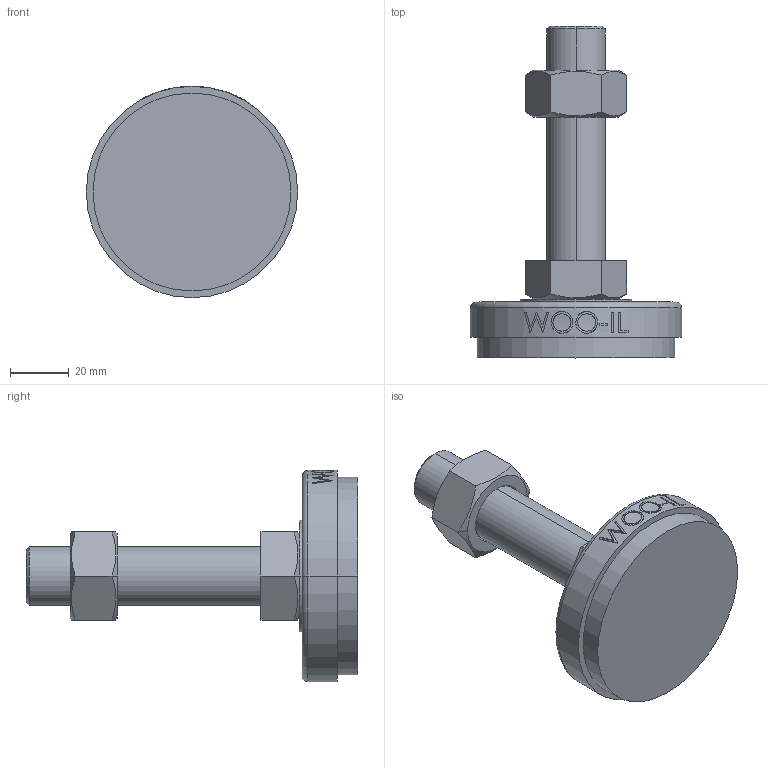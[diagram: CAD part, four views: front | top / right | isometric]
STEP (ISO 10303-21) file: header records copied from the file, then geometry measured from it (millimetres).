
FILE_DESCRIPTION (( 'STEP AP214' ), '1' );
FILE_NAME ('NS72-M20-80.step', '2021-01-11T05:48:57', ( '' ), ( '' ), 'SwSTEP 2.0', 'SolidWorks 2019', '' );
FILE_SCHEMA (( 'AUTOMOTIVE_DESIGN' ));
Length unit declared in the file: millimetre
Products named in the file (2): NS72-M20-80
Bounding box: 72 x 113 x 72 mm (x, y, z)
Volume: 117216.9 mm3; surface area: 23556.1 mm2
Topology: 3 solids, 3 shells, 96 faces, 223 edges, 144 vertices
Faces by surface type: plane 48, cylinder 18, bspline 16, cone 12, torus 2
Entity records: 4274 total; most frequent: CARTESIAN_POINT 2149, ORIENTED_EDGE 446, DIRECTION 381, EDGE_CURVE 223, VERTEX_POINT 144, AXIS2_PLACEMENT_3D 142, EDGE_LOOP 109, VECTOR 97
